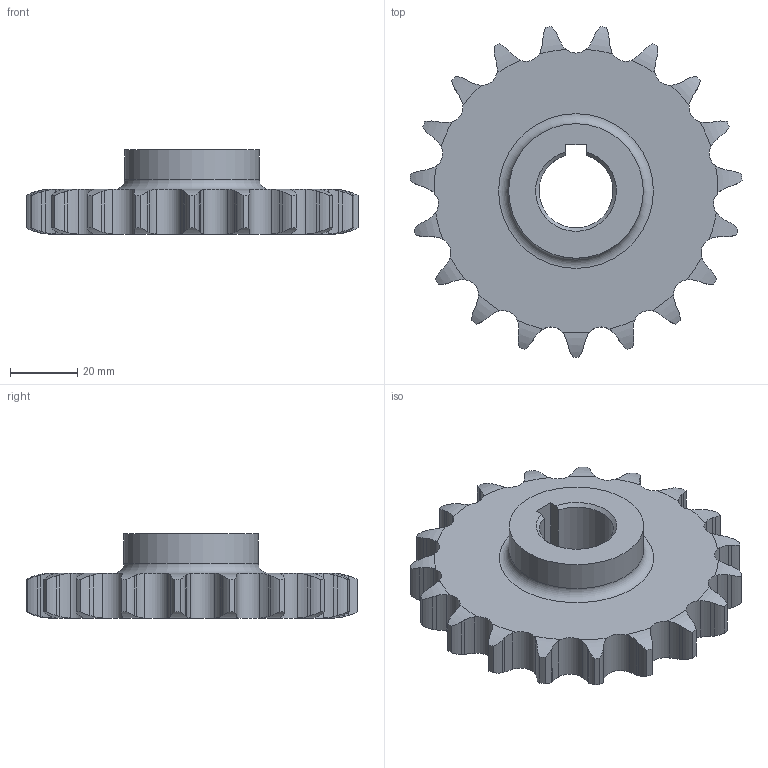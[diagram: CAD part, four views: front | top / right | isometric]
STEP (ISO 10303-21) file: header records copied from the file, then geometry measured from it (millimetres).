
FILE_DESCRIPTION(/* description */ (''),/* implementation_level */ '2;1');
FILE_NAME(/* name */ '',/* time_stamp */ '2026-07-01T11:13:58+09:00',/* author */ ('jhkim'),/* organization */ (''),/* preprocessor_version */ 'ST-DEVELOPER v20.1',/* originating_system */ 'Autodesk Inventor 2027',/* authorisation */ '');
FILE_SCHEMA (('AUTOMOTIVE_DESIGN { 1 0 10303 214 3 1 1 }'));
Length unit declared in the file: millimetre
Products named in the file (1): 체인 스프로킷
Bounding box: 98.68 x 98.35 x 25 mm (x, y, z)
Volume: 86386.8 mm3; surface area: 20370.2 mm2
Topology: 1 solids, 1 shells, 201 faces, 593 edges, 395 vertices
Faces by surface type: cylinder 116, plane 44, torus 39, cone 2
Full cylindrical faces by diameter (mm): 40 x1
Entity records: 7372 total; most frequent: CARTESIAN_POINT 2454, ORIENTED_EDGE 1186, DIRECTION 811, EDGE_CURVE 593, VERTEX_POINT 395, AXIS2_PLACEMENT_3D 324, B_SPLINE_CURVE_WITH_KNOTS 304, EDGE_LOOP 204
